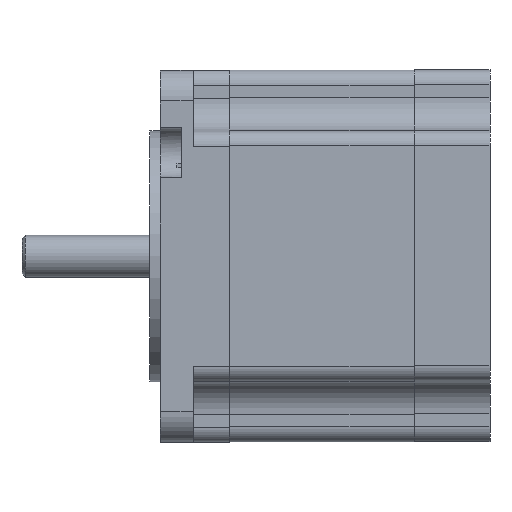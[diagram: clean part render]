
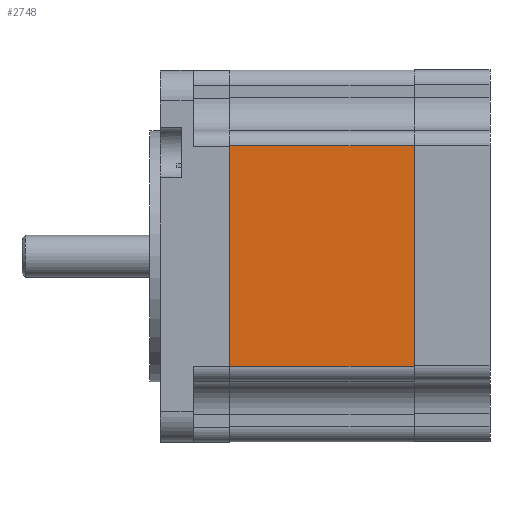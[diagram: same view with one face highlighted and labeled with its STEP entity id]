
A CAD part, left-side view. The second image highlights one B-rep face of the part: STEP entity #2748.
In plain terms, the highlighted planar face has unit normal (-1, 0, 0).
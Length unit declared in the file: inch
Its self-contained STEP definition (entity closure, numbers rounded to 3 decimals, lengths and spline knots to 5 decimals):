
#26=LINE('',#4087,#254);
#59=LINE('',#4204,#287);
#60=LINE('',#4207,#288);
#61=LINE('',#4208,#289);
#254=VECTOR('',#3241,1.31496);
#287=VECTOR('',#3358,1.10236);
#288=VECTOR('',#3361,1.31496);
#289=VECTOR('',#3362,1.10236);
#605=FACE_OUTER_BOUND('',#740,.T.);
#740=EDGE_LOOP('',(#1892,#1893,#1894,#1895));
#1079=VERTEX_POINT('',#4084);
#1080=VERTEX_POINT('',#4086);
#1122=VERTEX_POINT('',#4202);
#1123=VERTEX_POINT('',#4206);
#1377=EDGE_CURVE('',#1079,#1080,#26,.T.);
#1436=EDGE_CURVE('',#1080,#1122,#59,.T.);
#1437=EDGE_CURVE('',#1122,#1123,#60,.T.);
#1438=EDGE_CURVE('',#1079,#1123,#61,.T.);
#1892=ORIENTED_EDGE('',*,*,#1437,.F.);
#1893=ORIENTED_EDGE('',*,*,#1436,.F.);
#1894=ORIENTED_EDGE('',*,*,#1377,.F.);
#1895=ORIENTED_EDGE('',*,*,#1438,.T.);
#2550=PLANE('',#2941);
#2748=ADVANCED_FACE('',(#605),#2550,.F.);
#2941=AXIS2_PLACEMENT_3D('',#4205,#3359,#3360);
#3241=DIRECTION('',(0.,0.,-1.));
#3358=DIRECTION('',(0.,1.,0.));
#3359=DIRECTION('center_axis',(1.,0.,0.));
#3360=DIRECTION('ref_axis',(0.,0.,-1.));
#3361=DIRECTION('',(0.,0.,1.));
#3362=DIRECTION('',(0.,1.,0.));
#4084=CARTESIAN_POINT('',(-1.93977,0.20204,0.25785));
#4086=CARTESIAN_POINT('',(-1.93977,0.20204,-1.05712));
#4087=CARTESIAN_POINT('',(-1.93977,0.20204,0.25785));
#4202=CARTESIAN_POINT('',(-1.93977,1.3044,-1.05712));
#4204=CARTESIAN_POINT('',(-1.93977,0.20204,-1.05712));
#4205=CARTESIAN_POINT('Origin',(-1.93977,0.19614,0.25785));
#4206=CARTESIAN_POINT('',(-1.93977,1.3044,0.25785));
#4207=CARTESIAN_POINT('',(-1.93977,1.3044,-1.05712));
#4208=CARTESIAN_POINT('',(-1.93977,0.20204,0.25785));
